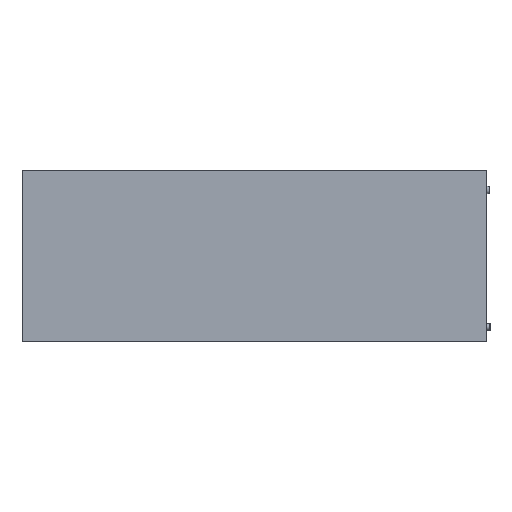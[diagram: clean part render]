
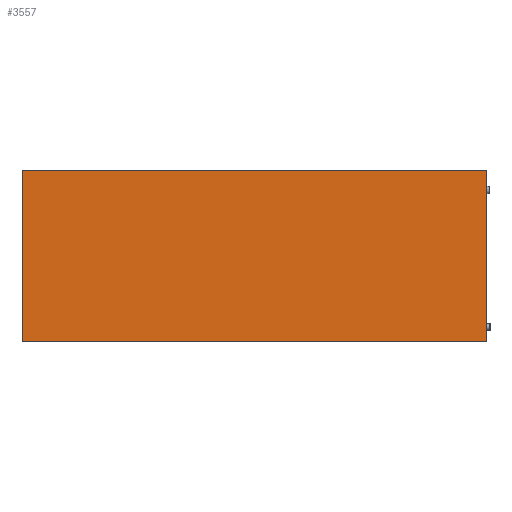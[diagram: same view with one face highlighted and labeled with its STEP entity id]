
A CAD part, left-side view. The second image highlights one B-rep face of the part: STEP entity #3557.
In plain terms, the highlighted planar face has unit normal (-1, 0, 0).
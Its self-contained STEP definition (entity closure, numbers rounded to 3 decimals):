
#134 = DIRECTION ( 'NONE',  ( 0., 0., 1. ) ) ;
#421 = VECTOR ( 'NONE', #134, 1000. ) ;
#1450 = VECTOR ( 'NONE', #4447, 1000. ) ;
#1454 = CARTESIAN_POINT ( 'NONE',  ( -400., 0., -175. ) ) ;
#1618 = PLANE ( 'NONE',  #3176 ) ;
#1707 = DIRECTION ( 'NONE',  ( 1., 0., 0. ) ) ;
#1767 = ORIENTED_EDGE ( 'NONE', *, *, #5674, .T. ) ;
#1991 = ORIENTED_EDGE ( 'NONE', *, *, #6742, .F. ) ;
#2641 = CARTESIAN_POINT ( 'NONE',  ( -400., 950., -175. ) ) ;
#2958 = VECTOR ( 'NONE', #6443, 1000. ) ;
#3176 = AXIS2_PLACEMENT_3D ( 'NONE', #8492, #1707, #7051 ) ;
#3364 = ORIENTED_EDGE ( 'NONE', *, *, #3414, .T. ) ;
#3412 = VERTEX_POINT ( 'NONE', #5247 ) ;
#3414 = EDGE_CURVE ( 'NONE', #8285, #8190, #9094, .T. ) ;
#3557 = ADVANCED_FACE ( 'NONE', ( #5485 ), #1618, .F. ) ;
#4002 = EDGE_LOOP ( 'NONE', ( #3364, #1767, #4727, #1991 ) ) ;
#4059 = LINE ( 'NONE', #8664, #2958 ) ;
#4217 = CARTESIAN_POINT ( 'NONE',  ( -400., 0., 175. ) ) ;
#4226 = CARTESIAN_POINT ( 'NONE',  ( -400., 0., -175. ) ) ;
#4447 = DIRECTION ( 'NONE',  ( 0., -1., 0. ) ) ;
#4727 = ORIENTED_EDGE ( 'NONE', *, *, #5964, .F. ) ;
#5129 = LINE ( 'NONE', #1454, #8319 ) ;
#5247 = CARTESIAN_POINT ( 'NONE',  ( -400., 950., 175. ) ) ;
#5388 = CARTESIAN_POINT ( 'NONE',  ( -400., 950., -175. ) ) ;
#5485 = FACE_OUTER_BOUND ( 'NONE', #4002, .T. ) ;
#5674 = EDGE_CURVE ( 'NONE', #8190, #7240, #5129, .T. ) ;
#5964 = EDGE_CURVE ( 'NONE', #3412, #7240, #4059, .T. ) ;
#6443 = DIRECTION ( 'NONE',  ( 0., -1., 0. ) ) ;
#6742 = EDGE_CURVE ( 'NONE', #8285, #3412, #6769, .T. ) ;
#6769 = LINE ( 'NONE', #5388, #421 ) ;
#7051 = DIRECTION ( 'NONE',  ( 0., 0., -1. ) ) ;
#7240 = VERTEX_POINT ( 'NONE', #4217 ) ;
#8190 = VERTEX_POINT ( 'NONE', #4226 ) ;
#8232 = DIRECTION ( 'NONE',  ( 0., 0., 1. ) ) ;
#8285 = VERTEX_POINT ( 'NONE', #2641 ) ;
#8319 = VECTOR ( 'NONE', #8232, 1000. ) ;
#8348 = CARTESIAN_POINT ( 'NONE',  ( -400., 950., -175. ) ) ;
#8492 = CARTESIAN_POINT ( 'NONE',  ( -400., 950., -175. ) ) ;
#8664 = CARTESIAN_POINT ( 'NONE',  ( -400., 950., 175. ) ) ;
#9094 = LINE ( 'NONE', #8348, #1450 ) ;
